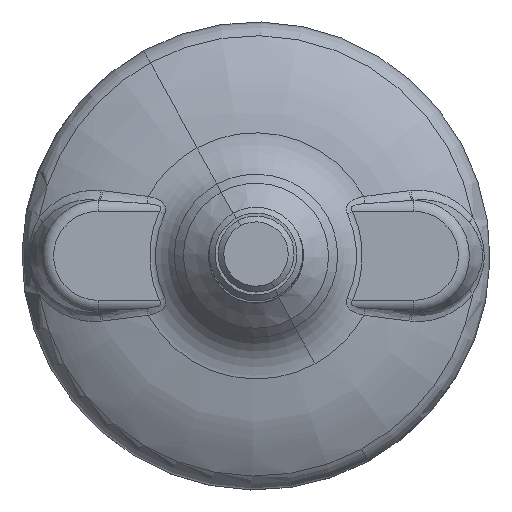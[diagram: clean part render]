
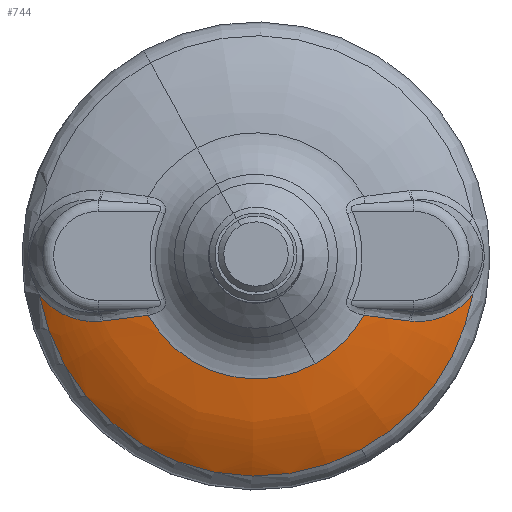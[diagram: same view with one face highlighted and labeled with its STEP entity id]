
A CAD part, top view. The second image highlights one B-rep face of the part: STEP entity #744.
In plain terms, the highlighted face is a revolution surface.
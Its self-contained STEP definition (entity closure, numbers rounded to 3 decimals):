
#210=CARTESIAN_POINT('Vertex',(37.066,-6.513,9.25)) ;
#364=CARTESIAN_POINT('Axis2P3D Location',(0.,0.,9.25)) ;
#368=CARTESIAN_POINT('Vertex',(18.043,-33.027,9.25)) ;
#504=CARTESIAN_POINT('Vertex',(26.441,-11.158,13.365)) ;
#508=CARTESIAN_POINT('Control Point',(26.441,-11.158,13.365)) ;
#509=CARTESIAN_POINT('Control Point',(27.14,-11.231,13.151)) ;
#510=CARTESIAN_POINT('Control Point',(27.848,-11.251,12.924)) ;
#511=CARTESIAN_POINT('Control Point',(28.562,-11.218,12.685)) ;
#512=CARTESIAN_POINT('Control Point',(29.84,-11.062,12.239)) ;
#513=CARTESIAN_POINT('Control Point',(31.115,-10.724,11.764)) ;
#514=CARTESIAN_POINT('Control Point',(31.674,-10.539,11.55)) ;
#515=CARTESIAN_POINT('Control Point',(32.73,-10.113,11.135)) ;
#516=CARTESIAN_POINT('Control Point',(33.761,-9.542,10.71)) ;
#517=CARTESIAN_POINT('Control Point',(34.245,-9.235,10.506)) ;
#518=CARTESIAN_POINT('Control Point',(35.132,-8.592,10.126)) ;
#519=CARTESIAN_POINT('Control Point',(35.974,-7.81,9.751)) ;
#520=CARTESIAN_POINT('Control Point',(36.354,-7.413,9.579)) ;
#521=CARTESIAN_POINT('Control Point',(36.72,-6.981,9.411)) ;
#522=CARTESIAN_POINT('Control Point',(37.066,-6.513,9.25)) ;
#630=CARTESIAN_POINT('Control Point',(-18.043,33.027,9.25)) ;
#631=CARTESIAN_POINT('Control Point',(-16.239,29.725,11.582)) ;
#632=CARTESIAN_POINT('Control Point',(-14.27,26.12,13.36)) ;
#633=CARTESIAN_POINT('Control Point',(-12.195,22.323,14.504)) ;
#634=CARTESIAN_POINT('Control Point',(-10.086,18.462,15.)) ;
#635=CARTESIAN_POINT('Axis1P Location',(0.,0.,-24.749)) ;
#669=CARTESIAN_POINT('Axis2P3D Location',(0.,0.,9.25)) ;
#673=CARTESIAN_POINT('Vertex',(-37.066,-6.513,9.25)) ;
#677=CARTESIAN_POINT('Control Point',(26.441,-11.158,13.365)) ;
#678=CARTESIAN_POINT('Control Point',(26.339,-11.147,13.396)) ;
#679=CARTESIAN_POINT('Control Point',(26.237,-11.137,13.427)) ;
#680=CARTESIAN_POINT('Control Point',(26.134,-11.126,13.458)) ;
#681=CARTESIAN_POINT('Vertex',(26.134,-11.126,13.458)) ;
#685=CARTESIAN_POINT('Control Point',(18.427,-10.151,15.)) ;
#686=CARTESIAN_POINT('Control Point',(20.381,-10.355,14.796)) ;
#687=CARTESIAN_POINT('Control Point',(22.311,-10.651,14.474)) ;
#688=CARTESIAN_POINT('Control Point',(24.228,-10.935,14.025)) ;
#689=CARTESIAN_POINT('Control Point',(26.134,-11.126,13.458)) ;
#690=CARTESIAN_POINT('Vertex',(18.427,-10.151,15.)) ;
#693=CARTESIAN_POINT('Axis2P3D Location',(0.,0.,15.)) ;
#697=CARTESIAN_POINT('Vertex',(10.086,-18.462,15.)) ;
#700=CARTESIAN_POINT('Axis2P3D Location',(0.,0.,15.)) ;
#704=CARTESIAN_POINT('Vertex',(-18.427,-10.151,15.)) ;
#708=CARTESIAN_POINT('Control Point',(-26.134,-11.126,13.458)) ;
#709=CARTESIAN_POINT('Control Point',(-24.229,-10.935,14.025)) ;
#710=CARTESIAN_POINT('Control Point',(-22.314,-10.652,14.473)) ;
#711=CARTESIAN_POINT('Control Point',(-20.38,-10.355,14.796)) ;
#712=CARTESIAN_POINT('Control Point',(-18.427,-10.151,15.)) ;
#713=CARTESIAN_POINT('Vertex',(-26.134,-11.126,13.458)) ;
#717=CARTESIAN_POINT('Control Point',(-26.441,-11.158,13.365)) ;
#718=CARTESIAN_POINT('Control Point',(-26.339,-11.147,13.396)) ;
#719=CARTESIAN_POINT('Control Point',(-26.237,-11.137,13.427)) ;
#720=CARTESIAN_POINT('Control Point',(-26.134,-11.126,13.458)) ;
#721=CARTESIAN_POINT('Vertex',(-26.441,-11.158,13.365)) ;
#725=CARTESIAN_POINT('Control Point',(-37.066,-6.513,9.25)) ;
#726=CARTESIAN_POINT('Control Point',(-35.329,-8.863,10.059)) ;
#727=CARTESIAN_POINT('Control Point',(-33.126,-10.273,11.025)) ;
#728=CARTESIAN_POINT('Control Point',(-30.9,-11.105,11.896)) ;
#729=CARTESIAN_POINT('Control Point',(-28.624,-11.385,12.697)) ;
#730=CARTESIAN_POINT('Control Point',(-26.441,-11.158,13.365)) ;
#365=DIRECTION('Axis2P3D Direction',(0.,0.,1.)) ;
#636=DIRECTION('Axis1P Direction',(-0.,-0.,-1.)) ;
#670=DIRECTION('Axis2P3D Direction',(0.,0.,1.)) ;
#694=DIRECTION('Axis2P3D Direction',(0.,0.,1.)) ;
#701=DIRECTION('Axis2P3D Direction',(0.,0.,1.)) ;
#366=AXIS2_PLACEMENT_3D('Circle Axis2P3D',#364,#365,$) ;
#671=AXIS2_PLACEMENT_3D('Circle Axis2P3D',#669,#670,$) ;
#695=AXIS2_PLACEMENT_3D('Circle Axis2P3D',#693,#694,$) ;
#702=AXIS2_PLACEMENT_3D('Circle Axis2P3D',#700,#701,$) ;
#733=ORIENTED_EDGE('',*,*,#675,.T.) ;
#734=ORIENTED_EDGE('',*,*,#370,.T.) ;
#735=ORIENTED_EDGE('',*,*,#523,.T.) ;
#736=ORIENTED_EDGE('',*,*,#683,.T.) ;
#737=ORIENTED_EDGE('',*,*,#692,.T.) ;
#738=ORIENTED_EDGE('',*,*,#699,.F.) ;
#739=ORIENTED_EDGE('',*,*,#706,.F.) ;
#740=ORIENTED_EDGE('',*,*,#715,.T.) ;
#741=ORIENTED_EDGE('',*,*,#723,.T.) ;
#742=ORIENTED_EDGE('',*,*,#731,.T.) ;
#744=ADVANCED_FACE('PartBody',(#743),#638,.F.) ;
#637=AXIS1_PLACEMENT('Revolution Surface Axis1P',#635,#636) ;
#507=B_SPLINE_CURVE_WITH_KNOTS('',5,(#508,#509,#510,#511,#512,#513,#514,#515,#516,#517,#518,#519,#520,#521,#522),.UNSPECIFIED.,.F.,.U.,(6,3,3,3,6),(16.532,21.285,25.021,28.41,31.368),.UNSPECIFIED.) ;
#629=B_SPLINE_CURVE_WITH_KNOTS('',4,(#630,#631,#632,#633,#634),.UNSPECIFIED.,.F.,.U.,(5,5),(40.636,58.345),.UNSPECIFIED.) ;
#676=B_SPLINE_CURVE_WITH_KNOTS('',3,(#677,#678,#679,#680),.UNSPECIFIED.,.F.,.U.,(4,4),(19.617,20.077),.UNSPECIFIED.) ;
#684=B_SPLINE_CURVE_WITH_KNOTS('',4,(#685,#686,#687,#688,#689),.UNSPECIFIED.,.F.,.U.,(5,5),(6.921,18.133),.UNSPECIFIED.) ;
#707=B_SPLINE_CURVE_WITH_KNOTS('',4,(#708,#709,#710,#711,#712),.UNSPECIFIED.,.F.,.U.,(5,5),(20.75,31.959),.UNSPECIFIED.) ;
#716=B_SPLINE_CURVE_WITH_KNOTS('',3,(#717,#718,#719,#720),.UNSPECIFIED.,.F.,.U.,(4,4),(19.617,20.078),.UNSPECIFIED.) ;
#724=B_SPLINE_CURVE_WITH_KNOTS('',5,(#725,#726,#727,#728,#729,#730),.UNSPECIFIED.,.F.,.U.,(6,6),(43.774,58.613),.UNSPECIFIED.) ;
#367=CIRCLE('generated circle',#366,37.634) ;
#672=CIRCLE('generated circle',#671,37.634) ;
#696=CIRCLE('generated circle',#695,21.038) ;
#703=CIRCLE('generated circle',#702,21.038) ;
#370=EDGE_CURVE('',#369,#211,#367,.T.) ;
#523=EDGE_CURVE('',#211,#505,#507,.F.) ;
#675=EDGE_CURVE('',#674,#369,#672,.T.) ;
#683=EDGE_CURVE('',#505,#682,#676,.T.) ;
#692=EDGE_CURVE('',#682,#691,#684,.F.) ;
#699=EDGE_CURVE('',#698,#691,#696,.T.) ;
#706=EDGE_CURVE('',#705,#698,#703,.T.) ;
#715=EDGE_CURVE('',#705,#714,#707,.F.) ;
#723=EDGE_CURVE('',#714,#722,#716,.F.) ;
#731=EDGE_CURVE('',#722,#674,#724,.F.) ;
#732=EDGE_LOOP('',(#733,#734,#735,#736,#737,#738,#739,#740,#741,#742)) ;
#743=FACE_OUTER_BOUND('',#732,.T.) ;
#638=SURFACE_OF_REVOLUTION('homeo Torus',#629,#637) ;
#211=VERTEX_POINT('',#210) ;
#369=VERTEX_POINT('',#368) ;
#505=VERTEX_POINT('',#504) ;
#674=VERTEX_POINT('',#673) ;
#682=VERTEX_POINT('',#681) ;
#691=VERTEX_POINT('',#690) ;
#698=VERTEX_POINT('',#697) ;
#705=VERTEX_POINT('',#704) ;
#714=VERTEX_POINT('',#713) ;
#722=VERTEX_POINT('',#721) ;
